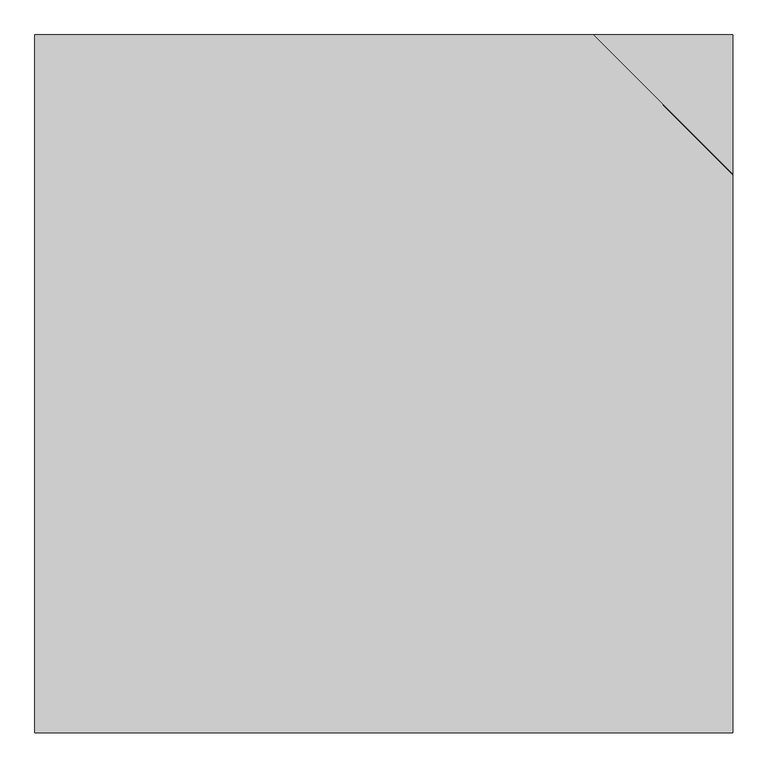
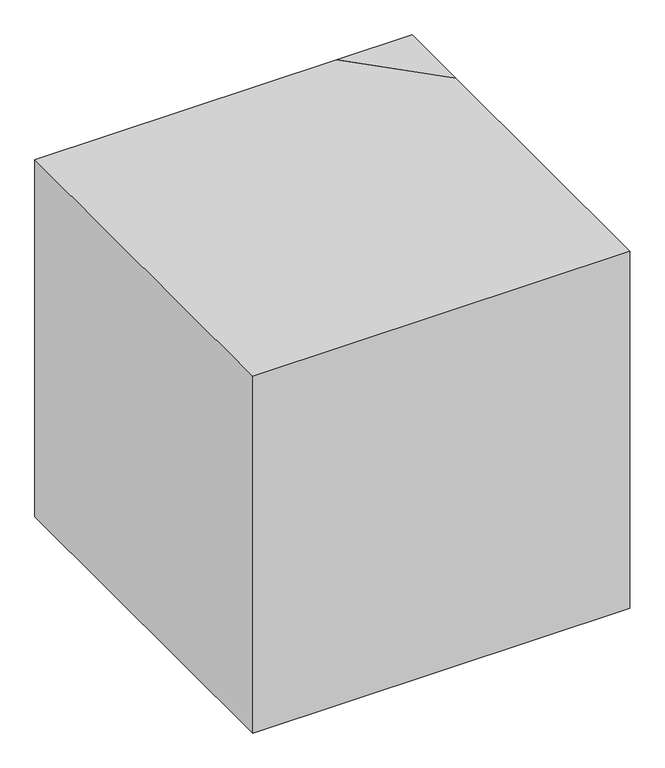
"""IFC4 building model written with IfcOpenShell, lengths in millimetres: proxy geometry, RBS_--_GM_coördinatiepunt : peildatum_UIT."""

import ifcopenshell
import ifcopenshell.guid

model = None  # the IFC model being written
_history = None  # IfcOwnerHistory: only IFC2X3 demands one
_inside = {}  # id of a spatial element -> (the spatial element, [elements in it])
_under = {}  # id of a project, library or spatial element -> (it, [spatial elements below it])
_declared = {}  # id of a project -> (the project, [libraries it declares])
_typed = {}  # id of a type object -> (the type object, [elements of that type])
_made_of = {}  # id of a material, layer set ... -> (it, [elements and type objects made of it])


def new_model(schema):
    """Start an empty IFC model of exactly this schema.

    Asked for "IFC4X3", IfcOpenShell would pick the latest addendum, in which some entities
    have other attributes; the version numbers below select the first issue.
    IFC2X3 requires an IfcOwnerHistory on every rooted entity: one is made here for all.
    """
    global model, _history
    if schema == "IFC4X3":
        model = ifcopenshell.file(schema_version=(4, 3, 0, 0))
    else:
        model = ifcopenshell.file(schema=schema)
    _inside.clear()
    _under.clear()
    _declared.clear()
    _typed.clear()
    _made_of.clear()
    _history = None
    if model.schema == "IFC2X3":
        org = make("IfcOrganization", Name="unknown")
        user = make(
            "IfcPersonAndOrganization",
            ThePerson=make("IfcPerson", FamilyName="unknown"),
            TheOrganization=org,
        )
        app = make(
            "IfcApplication",
            ApplicationDeveloper=org,
            Version="unknown",
            ApplicationFullName="unknown",
            ApplicationIdentifier="unknown",
        )
        _history = make(
            "IfcOwnerHistory",
            OwningUser=user,
            OwningApplication=app,
            ChangeAction="ADDED",
            CreationDate=0,
        )
    return model


def make(cls, **values):
    """One entity of the class cls with the attributes given. An attribute that is None is left unset."""
    return model.create_entity(
        cls, **{name: value for name, value in values.items() if value is not None}
    )


def rooted(cls, **values):
    """An entity with a GlobalId (a new one), such as an element, a storey or a relation."""
    return make(cls, GlobalId=ifcopenshell.guid.new(), OwnerHistory=_history, **values)


def si_unit(unit_type, name, prefix=None):
    """IfcSIUnit, for example si_unit("LENGTHUNIT", "METRE", prefix="MILLI")."""
    return make("IfcSIUnit", UnitType=unit_type, Prefix=prefix, Name=name)


def assignment(units):
    """IfcUnitAssignment: the units of a project."""
    return None if units is None else make("IfcUnitAssignment", Units=units)


def point(xyz):
    """IfcCartesianPoint."""
    return None if xyz is None else make("IfcCartesianPoint", Coordinates=xyz)


def direction(xyz):
    """IfcDirection."""
    return None if xyz is None else make("IfcDirection", DirectionRatios=xyz)


def frame(location, z_axis=None, x_axis=None):
    """IfcAxis2Placement3D, a coordinate frame: its origin and axes. An axis left out is left unset."""
    return make(
        "IfcAxis2Placement3D",
        Location=point(location),
        Axis=direction(z_axis),
        RefDirection=direction(x_axis),
    )


def origin():
    """The frame at (0, 0, 0) with its axes left unset."""
    return frame((0.0, 0.0, 0.0))


def place(relative_to, where):
    """IfcLocalPlacement: puts the frame where relative to a parent placement (None: the world)."""
    return make(
        "IfcLocalPlacement", PlacementRelTo=relative_to, RelativePlacement=where
    )


def context(
    kind, dimensions, precision=None, world=None, true_north=None, identifier=None
):
    """IfcGeometricRepresentationContext, for example the 3D "Model" context."""
    return make(
        "IfcGeometricRepresentationContext",
        ContextIdentifier=identifier,
        ContextType=kind,
        CoordinateSpaceDimension=dimensions,
        Precision=precision,
        WorldCoordinateSystem=world,
        TrueNorth=true_north,
    )


def project(units=None, contexts=None):
    """IfcProject with its units and contexts."""
    return rooted(
        "IfcProject",
        Name="project",
        RepresentationContexts=contexts,
        UnitsInContext=assignment(units),
    )


def spatial(cls, under=None, at=None, **own):
    """A site, building, storey or space (cls), placed at a placement, below another one or the project."""
    s = rooted(cls, ObjectPlacement=at, **own)
    if under is not None:
        _under.setdefault(under.id(), (under, []))[1].append(s)
    return s


def faces_of(points, faces, orient=None, outer=None):
    """IfcFace entities. A face is a list of loops; a loop is a list of indices into points, from 0.

    orient and outer hold one flag for each loop. By default every Orientation is true, the
    first loop of a face is its IfcFaceOuterBound and the others are IfcFaceBound.
    """
    made = []
    for i, loops in enumerate(faces):
        bounds = []
        for j, loop in enumerate(loops):
            is_outer = j == 0 if outer is None else outer[i][j]
            bounds.append(
                make(
                    "IfcFaceOuterBound" if is_outer else "IfcFaceBound",
                    Bound=make("IfcPolyLoop", Polygon=[points[k] for k in loop]),
                    Orientation=True if orient is None else orient[i][j],
                )
            )
        made.append(make("IfcFace", Bounds=bounds))
    return made


def faceted_brep(points, faces, orient=None, outer=None, voids=None):
    """IfcFacetedBrep: a solid bounded by flat faces; with voids (closed shells), ...WithVoids."""
    shared = [point(p) for p in points]
    hull = make("IfcClosedShell", CfsFaces=faces_of(shared, faces, orient, outer))
    if voids is None:
        return make("IfcFacetedBrep", Outer=hull)
    return make(
        "IfcFacetedBrepWithVoids",
        Outer=hull,
        Voids=[
            make(cls, CfsFaces=faces_of(shared, fs, o, b)) for cls, fs, o, b in voids
        ],
    )


def shape(context_of_items, identifier, shape_type, items):
    """IfcShapeRepresentation: the items that make up one representation, for example the "Body"."""
    return make(
        "IfcShapeRepresentation",
        ContextOfItems=context_of_items,
        RepresentationIdentifier=identifier,
        RepresentationType=shape_type,
        Items=items,
    )


def source(mapping_origin, context_of_items, identifier, shape_type, items):
    """IfcRepresentationMap: a shape defined once, which mapped items show again and again."""
    return make(
        "IfcRepresentationMap",
        MappingOrigin=mapping_origin,
        MappedRepresentation=shape(context_of_items, identifier, shape_type, items),
    )


def transform(
    local_origin,
    x_axis=None,
    y_axis=None,
    z_axis=None,
    scale=None,
    scale2=None,
    scale3=None,
    uniform=True,
):
    """IfcCartesianTransformationOperator3D, or its non-uniform kind. x_axis, y_axis, z_axis: its Axis1, 2, 3."""
    if uniform:
        return make(
            "IfcCartesianTransformationOperator3D",
            Axis1=direction(x_axis),
            Axis2=direction(y_axis),
            LocalOrigin=point(local_origin),
            Scale=scale,
            Axis3=direction(z_axis),
        )
    return make(
        "IfcCartesianTransformationOperator3DnonUniform",
        Axis1=direction(x_axis),
        Axis2=direction(y_axis),
        LocalOrigin=point(local_origin),
        Scale=scale,
        Axis3=direction(z_axis),
        Scale2=scale2,
        Scale3=scale3,
    )


def mapped(mapping_source, mapping_target):
    """IfcMappedItem: shows the shape of a source again, moved by a transform."""
    return make(
        "IfcMappedItem", MappingSource=mapping_source, MappingTarget=mapping_target
    )


def made_of(thing, what):
    """Note that an element or type object is made of a material, layer set ...; save() writes the relation."""
    if what is not None:
        _made_of.setdefault(what.id(), (what, []))[1].append(thing)
    return thing


def element(
    cls,
    number,
    at=None,
    inside=None,
    cuts=None,
    type_object=None,
    material=None,
    context=None,
    identifier="Body",
    shape_type=None,
    held_by="IfcProductDefinitionShape",
    body=None,
    shapes=None,
    **own,
):
    """One element of the class cls, such as IfcWall. Its Tag is "e" and its number.

    at: its placement. inside: the storey or other place that contains it. cuts: it is an
    opening in that element (IfcRelVoidsElement). A single representation is given by context,
    identifier, shape_type and body (its items); several are given by shapes. held_by: the class
    of the entity that holds the representations. save() writes the other relations.
    """
    e = rooted(cls, Tag="e%d" % number, ObjectPlacement=at, **own)
    if body is not None:
        shapes = [shape(context, identifier, shape_type, body)]
    if shapes is not None:
        e.Representation = make(held_by, Representations=shapes)
    if inside is not None:
        _inside.setdefault(inside.id(), (inside, []))[1].append(e)
    if cuts is not None:
        rooted(
            "IfcRelVoidsElement", RelatingBuildingElement=cuts, RelatedOpeningElement=e
        )
    if type_object is not None:
        _typed.setdefault(type_object.id(), (type_object, []))[1].append(e)
    return made_of(e, material)


def aggregate(whole, parts):
    """IfcRelAggregates: a whole, such as a stair, and the parts it consists of."""
    return rooted("IfcRelAggregates", RelatingObject=whole, RelatedObjects=parts)


def save(model, path):
    """Write the relations noted so far, then the file.

    IfcRelAggregates (storeys below a building ...), IfcRelContainedInSpatialStructure (elements
    in a storey), IfcRelDefinesByType, IfcRelAssociatesMaterial and IfcRelDeclares: one each for
    every whole, place, type object, material and project.
    """
    for whole, parts in _under.values():
        aggregate(whole, parts)
    for where, things in _inside.values():
        rooted(
            "IfcRelContainedInSpatialStructure",
            RelatedElements=things,
            RelatingStructure=where,
        )
    for kind, things in _typed.values():
        rooted("IfcRelDefinesByType", RelatedObjects=things, RelatingType=kind)
    for what, things in _made_of.values():
        rooted("IfcRelAssociatesMaterial", RelatedObjects=things, RelatingMaterial=what)
    for by, libraries in _declared.values():
        rooted("IfcRelDeclares", RelatingContext=by, RelatedDefinitions=libraries)
    model.write(path)


def generic_models_168f31e5(model_context):
    return source(origin(), model_context, "Body", "Brep", [
        faceted_brep([(-1000.0, 0.0, -1000.0), (-1000.0, 0.0, 0.0), (-200.0, 0.0, 0.0), (0.0, 0.0, -200.0), (0.0, 0.0, -1000.0), (-1000.0, -1000.0, -1000.0), (0.0, -1000.0, -1000.0), (0.0, -1000.0, 0.0), (-1000.0, -1000.0, 0.0), (0.0, -200.0, 0.0)], [[[0, 1, 2, 3, 4]], [[5, 6, 7, 8]], [[0, 4, 6, 5]], [[7, 6, 4, 3, 9]], [[8, 7, 9, 2, 1]], [[1, 0, 5, 8]], [[3, 2, 9]]]),
        faceted_brep([(-200.0, 0.0, 0.0), (0.0, 0.0, 0.0), (0.0, 0.0, -200.0), (0.0, -200.0, 0.0)], [[[0, 1, 2]], [[2, 1, 3]], [[3, 1, 0]], [[0, 2, 3]]]),
    ])


if __name__ == "__main__":
    model = new_model("IFC4")
    model_context = context("Model", 3, world=origin())
    ifc_project = project(units=[si_unit("LENGTHUNIT", "METRE", prefix="MILLI")], contexts=[model_context])
    site = spatial("IfcSite", under=ifc_project)
    building = spatial("IfcBuilding", under=site)
    placement = place(None, origin())
    generic_models_shape = generic_models_168f31e5(model_context)
    element("IfcBuildingElementProxy", 1, Name="RBS_--_GM_coördinatiepunt : peildatum_UIT", ObjectType="RBS_--_GM_coördinatiepunt : peildatum_UIT", at=placement, inside=building, context=model_context, shape_type="MappedRepresentation", body=[
        mapped(generic_models_shape, transform((0.0, 0.0, 0.0), x_axis=(1.0, 0.0, 0.0), y_axis=(0.0, 1.0, 0.0), z_axis=(0.0, 0.0, 1.0))),
    ])
    save(model, "model.ifc")
